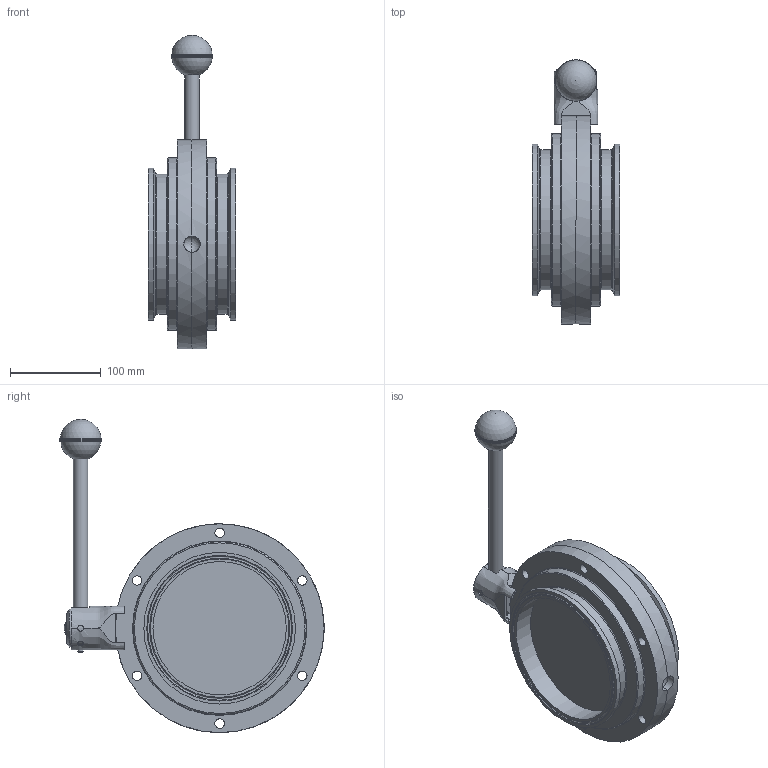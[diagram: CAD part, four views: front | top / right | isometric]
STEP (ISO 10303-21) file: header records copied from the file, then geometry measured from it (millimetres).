
FILE_DESCRIPTION(/* description */ ('VVF VALV.FARF.DN 6" CLA HNBR 316 LEVA INOX 3POS.'),/* implementation_level */ '2;1');
FILE_NAME(/* name */ 'C:\_DED_PWS\ZIGN-L\DB\B\EBA\BEBAAR600BHBV-00^SAGOMA.step',/* time_stamp */ '2022-11-22T08:32:10+01:00',/* author */ (''),/* organization */ (''),/* preprocessor_version */ 'ST-DEVELOPER v18.1',/* originating_system */ 'Autodesk Inventor 2022',/* authorisation */ '');
FILE_SCHEMA (('CONFIG_CONTROL_DESIGN'));
Length unit declared in the file: millimetre
Products named in the file (9): BEBAAR600BHBV; TNU430150AAA; 3DAAZVFAP008; 3DAAZVFAP009; 3DAAZVFAP010; 3DAAZVFAP005; 3DAAZVFAP007; RBBAA06X16; TWDBB1507TC
Assembly tree (9 placements, depth 3):
  BEBAAR600BHBV
    TNU430150AAA
      3DAAZVFAP008
      3DAAZVFAP009
      3DAAZVFAP010
      3DAAZVFAP005
      3DAAZVFAP007
      RBBAA06X16
    TWDBB1507TC  x2
Bounding box: 96 x 290.95 x 344.95 mm (x, y, z)
Volume: 2150918.9 mm3; surface area: 307233.3 mm2
Topology: 8 solids, 8 shells, 588 faces, 1427 edges, 944 vertices
Faces by surface type: plane 401, torus 103, cylinder 54, bspline 14, cone 12, sphere 4
Full cylindrical faces by diameter (mm): 6 x2, 6.5 x3, 6.9 x1, 9.3 x1, 10 x1, 10.5 x12, 10.8 x2, 11.1 x1, 11.4 x2, 11.8 x1, 13.4 x1, 16 x1, 16.1 x1, 16.2 x1, 19.8 x1, 20 x1, 20.5 x1, 42 x1, 146.86 x2, 154.4 x2, 167 x2, 190 x2, 230 x2
Entity records: 30570 total; most frequent: CARTESIAN_POINT 16873, DIRECTION 2892, ORIENTED_EDGE 2704, EDGE_CURVE 1352, AXIS2_PLACEMENT_3D 1203, VERTEX_POINT 897, EDGE_LOOP 677, CIRCLE 624
